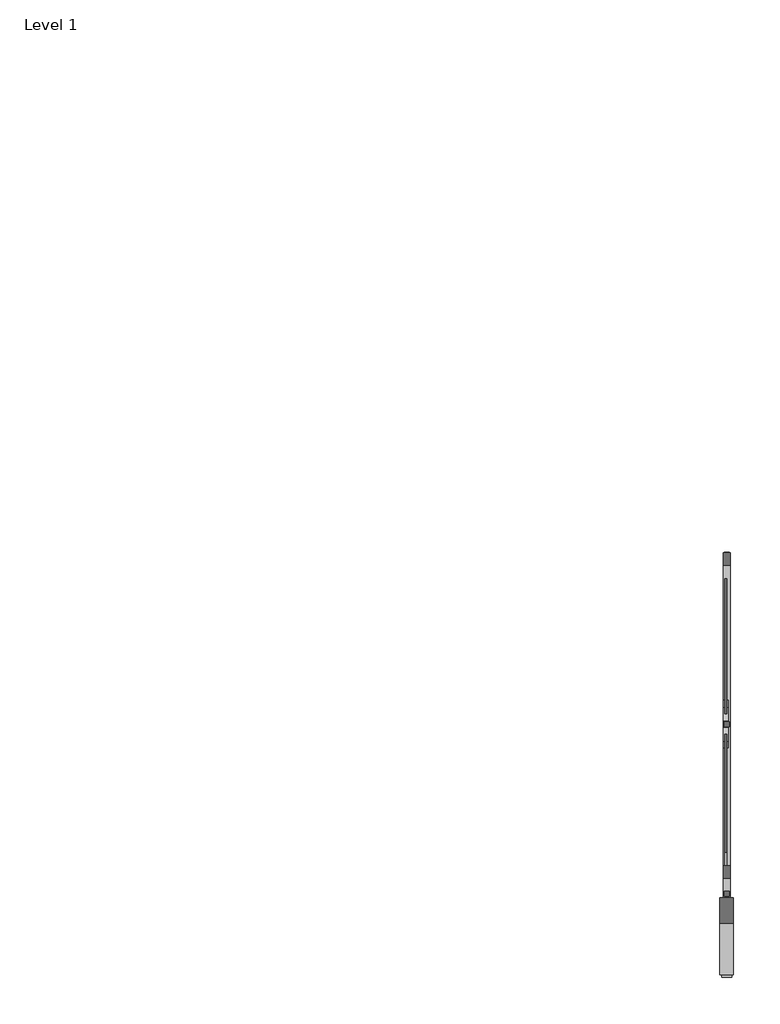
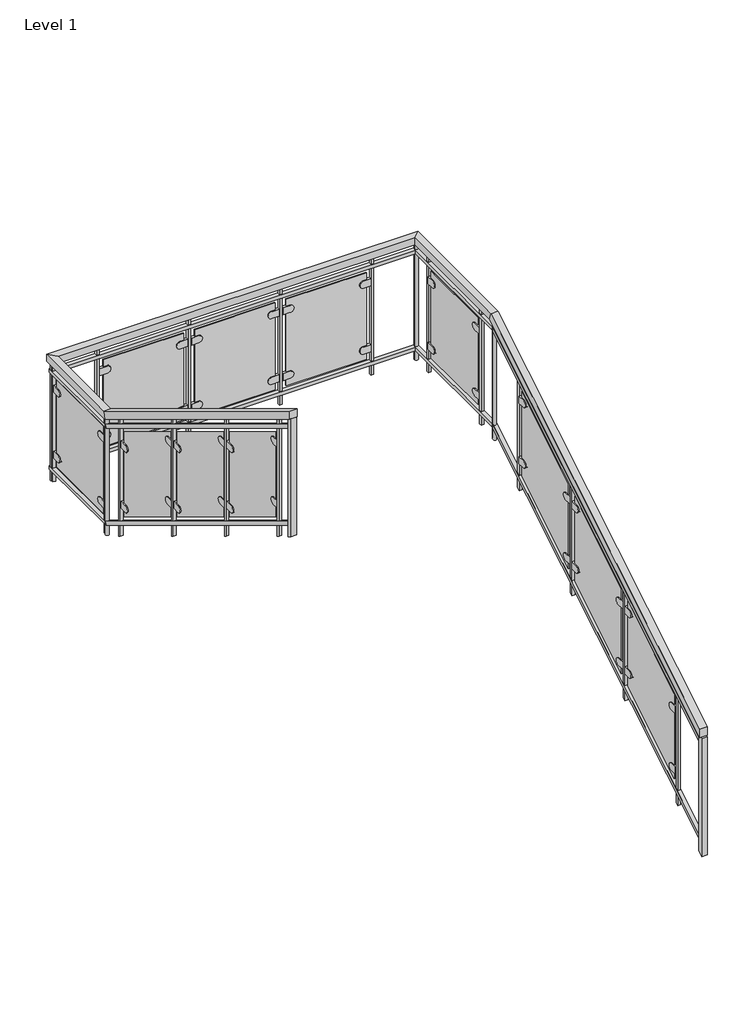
# One storey, part 2 of 14: 1 railing.
"""IFC4 building model written with IfcOpenShell, lengths in millimetres."""

from ifc_helpers import new_model, si_unit, point, frame, frame_2d, origin, place, context, project, spatial, polyline, circle_curve, ellipse_curve, trimmed, segment, composite_curve, outline, extrude, faceted_brep, element, save
from ifc_brep_helpers import plane_surface, cylinder_surface, advanced_brep

model = new_model("IFC4")

# Units and contexts
model_context = context("Model", 3, world=origin())
ifc_project = project(units=[si_unit("LENGTHUNIT", "METRE", prefix="MILLI")], contexts=[model_context])

# Site, building, storey
site = spatial("IfcSite", under=ifc_project)
building = spatial("IfcBuilding", under=site)
storey = spatial("IfcBuildingStorey", under=building, Name="Level 1", Elevation=0.0)

# Railing
placement = place(None, origin())
element("IfcRailing", 1, ObjectType="Handrail - Glass Panel w Brackets", at=placement, inside=storey, context=model_context, shape_type="SolidModel", body=[
    faceted_brep([(-15264.3978678, -2131.266536, 1083.7333333), (-15264.3978678, -2131.266536, 1024.3318731), (-15213.5978678, -2131.266536, 1024.3318731), (-15213.5978678, -2131.266536, 1083.7333333), (-15264.3978678, 383.333464, 2607.7333333), (-15264.3978678, 397.5258734, 2556.9333333), (-15213.5978678, 397.5258734, 2556.9333333), (-15213.5978678, 383.333464, 2607.7333333), (-15264.3978678, 1297.733464, 2607.7333333), (-15264.3978678, 1297.733464, 2556.9333333), (-15213.5978678, 1348.533464, 2556.9333333), (-15213.5978678, 1348.533464, 2607.7333333), (-17739.4743809, 1297.733464, 2607.7333333), (-17739.4743809, 1297.733464, 2556.9333333), (-17790.2743809, 1348.533464, 2556.9333333), (-17790.2743809, 1348.533464, 2607.7333333), (-17739.4743809, 662.733464, 2607.7333333), (-17739.4743809, 648.5410545, 2556.9333333), (-17790.2743809, 648.5410545, 2556.9333333), (-17790.2743809, 662.733464, 2607.7333333), (-17739.4743809, -1572.466536, 3962.4), (-17790.2743809, -1572.466536, 3962.4), (-17790.2743809, -1572.466536, 3902.9985397), (-17739.4743809, -1572.466536, 3902.9985397)], [[[0, 1, 2, 3]], [[1, 0, 4, 5]], [[2, 1, 5, 6]], [[3, 2, 6, 7]], [[0, 3, 7, 4]], [[5, 4, 8, 9]], [[6, 5, 9, 10]], [[7, 6, 10, 11]], [[4, 7, 11, 8]], [[9, 8, 12, 13]], [[10, 9, 13, 14]], [[11, 10, 14, 15]], [[8, 11, 15, 12]], [[13, 12, 16, 17]], [[14, 13, 17, 18]], [[15, 14, 18, 19]], [[12, 15, 19, 16]], [[20, 21, 22, 23]], [[17, 16, 20, 23]], [[18, 17, 23, 22]], [[19, 18, 22, 21]], [[16, 19, 21, 20]]]),
    faceted_brep([(-15226.2978678, -2131.266536, 982.1333333), (-15251.6978678, -2131.266536, 982.1333333), (-15251.6978678, -2131.266536, 952.4326032), (-15226.2978678, -2131.266536, 952.4326032), (-15226.2978678, 383.333464, 2506.1333333), (-15251.6978678, 383.333464, 2506.1333333), (-15251.6978678, 390.4296687, 2480.7333333), (-15226.2978678, 390.4296687, 2480.7333333), (-15226.2978678, 1335.833464, 2506.1333333), (-15251.6978678, 1310.433464, 2506.1333333), (-15251.6978678, 1310.433464, 2480.7333333), (-15226.2978678, 1335.833464, 2480.7333333), (-17777.5743809, 1335.833464, 2506.1333333), (-17752.1743809, 1310.433464, 2506.1333333), (-17752.1743809, 1310.433464, 2480.7333333), (-17777.5743809, 1335.833464, 2480.7333333), (-17777.5743809, 662.733464, 2506.1333333), (-17752.1743809, 662.733464, 2506.1333333), (-17752.1743809, 655.6372592, 2480.7333333), (-17777.5743809, 655.6372592, 2480.7333333), (-17777.5743809, -1572.466536, 3860.8), (-17777.5743809, -1572.466536, 3831.0992699), (-17752.1743809, -1572.466536, 3831.0992699), (-17752.1743809, -1572.466536, 3860.8)], [[[0, 1, 2, 3]], [[1, 0, 4, 5]], [[2, 1, 5, 6]], [[3, 2, 6, 7]], [[0, 3, 7, 4]], [[5, 4, 8, 9]], [[6, 5, 9, 10]], [[7, 6, 10, 11]], [[4, 7, 11, 8]], [[9, 8, 12, 13]], [[10, 9, 13, 14]], [[11, 10, 14, 15]], [[8, 11, 15, 12]], [[13, 12, 16, 17]], [[14, 13, 17, 18]], [[15, 14, 18, 19]], [[12, 15, 19, 16]], [[20, 21, 22, 23]], [[17, 16, 20, 23]], [[18, 17, 23, 22]], [[19, 18, 22, 21]], [[16, 19, 21, 20]]]),
    faceted_brep([(-15226.2978678, -2131.266536, 270.9333333), (-15251.6978678, -2131.266536, 270.9333333), (-15251.6978678, -2131.266536, 241.2326032), (-15226.2978678, -2131.266536, 241.2326032), (-15226.2978678, 383.333464, 1794.9333333), (-15251.6978678, 383.333464, 1794.9333333), (-15251.6978678, 390.4296687, 1769.5333333), (-15226.2978678, 390.4296687, 1769.5333333), (-15226.2978678, 1335.833464, 1794.9333333), (-15251.6978678, 1310.433464, 1794.9333333), (-15251.6978678, 1310.433464, 1769.5333333), (-15226.2978678, 1335.833464, 1769.5333333), (-17777.5743809, 1335.833464, 1794.9333333), (-17752.1743809, 1310.433464, 1794.9333333), (-17752.1743809, 1310.433464, 1769.5333333), (-17777.5743809, 1335.833464, 1769.5333333), (-17777.5743809, 662.733464, 1794.9333333), (-17752.1743809, 662.733464, 1794.9333333), (-17752.1743809, 655.6372592, 1769.5333333), (-17777.5743809, 655.6372592, 1769.5333333), (-17777.5743809, -1572.466536, 3149.6), (-17777.5743809, -1572.466536, 3119.8992699), (-17752.1743809, -1572.466536, 3119.8992699), (-17752.1743809, -1572.466536, 3149.6)], [[[0, 1, 2, 3]], [[1, 0, 4, 5]], [[2, 1, 5, 6]], [[3, 2, 6, 7]], [[0, 3, 7, 4]], [[5, 4, 8, 9]], [[6, 5, 9, 10]], [[7, 6, 10, 11]], [[4, 7, 11, 8]], [[9, 8, 12, 13]], [[10, 9, 13, 14]], [[11, 10, 14, 15]], [[8, 11, 15, 12]], [[13, 12, 16, 17]], [[14, 13, 17, 18]], [[15, 14, 18, 19]], [[12, 15, 19, 16]], [[20, 21, 22, 23]], [[17, 16, 20, 23]], [[18, 17, 23, 22]], [[19, 18, 22, 21]], [[16, 19, 21, 20]]]),
    extrude(outline(polyline([(-1416.891536, 3808.710661), (-1397.841536, 3797.1652064), (-1397.841536, 2933.8356134), (-1416.891536, 2945.381068), (-1416.891536, 3808.710661)])), frame((-17774.3993809, 0.0, 0.0), z_axis=(1.0, 0.0, 0.0), x_axis=(0.0, 1.0, 0.0)), (0.0, 0.0, 1.0), 19.05),
    extrude(outline(composite_curve([segment(trimmed(circle_curve(frame_2d((-1343.866536, 3604.5387736)), 25.4), [point((-1343.866536, 3629.9387736))], [point((-1343.866536, 3579.1387736))], False, "CARTESIAN"), True, "CONTINUOUS"), segment(polyline([(-1343.866536, 3579.1387736), (-1394.666536, 3579.1387736), (-1394.666536, 3629.9387736), (-1343.866536, 3629.9387736)]), True, "CONTINUOUS")], self_intersect=False)), frame((-17771.2243809, 0.0, 0.0), z_axis=(1.0, 0.0, 0.0), x_axis=(0.0, 1.0, 0.0)), (0.0, 0.0, 1.0), 19.05),
    extrude(outline(composite_curve([segment(polyline([(-835.866536, 3260.4842282), (-785.066536, 3260.4842282), (-785.066536, 3209.6842282), (-835.866536, 3209.6842282)]), True, "CONTINUOUS"), segment(trimmed(circle_curve(frame_2d((-835.866536, 3235.0842282)), 25.4), [point((-835.866536, 3209.6842282))], [point((-835.866536, 3260.4842282))], False, "CARTESIAN"), True, "CONTINUOUS")], self_intersect=False)), frame((-17771.2243809, 0.0, 0.0), z_axis=(1.0, 0.0, 0.0), x_axis=(0.0, 1.0, 0.0)), (0.0, 0.0, 1.0), 19.05),
    extrude(outline(composite_curve([segment(trimmed(circle_curve(frame_2d((-1343.866536, 3160.6453447)), 25.4), [point((-1343.866536, 3186.0453447))], [point((-1343.866536, 3135.2453447))], False, "CARTESIAN"), True, "CONTINUOUS"), segment(polyline([(-1343.866536, 3135.2453447), (-1394.666536, 3135.2453447), (-1394.666536, 3186.0453447), (-1343.866536, 3186.0453447)]), True, "CONTINUOUS")], self_intersect=False)), frame((-17771.2243809, 0.0, 0.0), z_axis=(1.0, 0.0, 0.0), x_axis=(0.0, 1.0, 0.0)), (0.0, 0.0, 1.0), 19.05),
    extrude(outline(composite_curve([segment(polyline([(-835.866536, 2816.5907993), (-785.066536, 2816.5907993), (-785.066536, 2765.7907993), (-835.866536, 2765.7907993)]), True, "CONTINUOUS"), segment(trimmed(circle_curve(frame_2d((-835.866536, 2791.1907993)), 25.4), [point((-835.866536, 2765.7907993))], [point((-835.866536, 2816.5907993))], False, "CARTESIAN"), True, "CONTINUOUS")], self_intersect=False)), frame((-17771.2243809, 0.0, 0.0), z_axis=(1.0, 0.0, 0.0), x_axis=(0.0, 1.0, 0.0)), (0.0, 0.0, 1.0), 19.05),
    extrude(outline(polyline([(-810.466536, 3339.5803579), (-810.466536, 2717.4825483), (-1369.266536, 3056.149215), (-1369.266536, 3678.2470246), (-810.466536, 3339.5803579)])), frame((-17764.8743809, 0.0, 0.0), z_axis=(1.0, 0.0, 0.0), x_axis=(0.0, 1.0, 0.0)), (0.0, 0.0, 1.0), 6.35),
    extrude(outline(polyline([(-781.891536, 3423.8621761), (-762.841536, 3412.3167216), (-762.841536, 2548.9871286), (-781.891536, 2560.5325831), (-781.891536, 3423.8621761)])), frame((-17774.3993809, 0.0, 0.0), z_axis=(1.0, 0.0, 0.0), x_axis=(0.0, 1.0, 0.0)), (0.0, 0.0, 1.0), 19.05),
    extrude(outline(composite_curve([segment(trimmed(circle_curve(frame_2d((-708.866536, 3219.6902888)), 25.4), [point((-708.866536, 3245.0902888))], [point((-708.866536, 3194.2902888))], False, "CARTESIAN"), True, "CONTINUOUS"), segment(polyline([(-708.866536, 3194.2902888), (-759.666536, 3194.2902888), (-759.666536, 3245.0902888), (-708.866536, 3245.0902888)]), True, "CONTINUOUS")], self_intersect=False)), frame((-17771.2243809, 0.0, 0.0), z_axis=(1.0, 0.0, 0.0), x_axis=(0.0, 1.0, 0.0)), (0.0, 0.0, 1.0), 19.05),
    extrude(outline(composite_curve([segment(polyline([(-200.866536, 2875.6357433), (-150.066536, 2875.6357433), (-150.066536, 2824.8357433), (-200.866536, 2824.8357433)]), True, "CONTINUOUS"), segment(trimmed(circle_curve(frame_2d((-200.866536, 2850.2357433)), 25.4), [point((-200.866536, 2824.8357433))], [point((-200.866536, 2875.6357433))], False, "CARTESIAN"), True, "CONTINUOUS")], self_intersect=False)), frame((-17771.2243809, 0.0, 0.0), z_axis=(1.0, 0.0, 0.0), x_axis=(0.0, 1.0, 0.0)), (0.0, 0.0, 1.0), 19.05),
    extrude(outline(composite_curve([segment(trimmed(circle_curve(frame_2d((-708.866536, 2775.7968599)), 25.4), [point((-708.866536, 2801.1968599))], [point((-708.866536, 2750.3968599))], False, "CARTESIAN"), True, "CONTINUOUS"), segment(polyline([(-708.866536, 2750.3968599), (-759.666536, 2750.3968599), (-759.666536, 2801.1968599), (-708.866536, 2801.1968599)]), True, "CONTINUOUS")], self_intersect=False)), frame((-17771.2243809, 0.0, 0.0), z_axis=(1.0, 0.0, 0.0), x_axis=(0.0, 1.0, 0.0)), (0.0, 0.0, 1.0), 19.05),
    extrude(outline(composite_curve([segment(polyline([(-200.866536, 2431.7423144), (-150.066536, 2431.7423144), (-150.066536, 2380.9423144), (-200.866536, 2380.9423144)]), True, "CONTINUOUS"), segment(trimmed(circle_curve(frame_2d((-200.866536, 2406.3423144)), 25.4), [point((-200.866536, 2380.9423144))], [point((-200.866536, 2431.7423144))], False, "CARTESIAN"), True, "CONTINUOUS")], self_intersect=False)), frame((-17771.2243809, 0.0, 0.0), z_axis=(1.0, 0.0, 0.0), x_axis=(0.0, 1.0, 0.0)), (0.0, 0.0, 1.0), 19.05),
    extrude(outline(polyline([(-175.466536, 2954.7318731), (-175.466536, 2332.6340635), (-734.266536, 2671.3007301), (-734.266536, 3293.3985397), (-175.466536, 2954.7318731)])), frame((-17764.8743809, 0.0, 0.0), z_axis=(1.0, 0.0, 0.0), x_axis=(0.0, 1.0, 0.0)), (0.0, 0.0, 1.0), 6.35),
    extrude(outline(polyline([(-146.891536, 3039.0136913), (-127.841536, 3027.4682367), (-127.841536, 2164.1386437), (-146.891536, 2175.6840983), (-146.891536, 3039.0136913)])), frame((-17774.3993809, 0.0, 0.0), z_axis=(1.0, 0.0, 0.0), x_axis=(0.0, 1.0, 0.0)), (0.0, 0.0, 1.0), 19.05),
    extrude(outline(composite_curve([segment(trimmed(circle_curve(frame_2d((-73.866536, 2834.8418039)), 25.4), [point((-73.866536, 2860.2418039))], [point((-73.866536, 2809.4418039))], False, "CARTESIAN"), True, "CONTINUOUS"), segment(polyline([(-73.866536, 2809.4418039), (-124.666536, 2809.4418039), (-124.666536, 2860.2418039), (-73.866536, 2860.2418039)]), True, "CONTINUOUS")], self_intersect=False)), frame((-17771.2243809, 0.0, 0.0), z_axis=(1.0, 0.0, 0.0), x_axis=(0.0, 1.0, 0.0)), (0.0, 0.0, 1.0), 19.05),
    extrude(outline(composite_curve([segment(polyline([(434.133464, 2490.7872585), (484.933464, 2490.7872585), (484.933464, 2439.9872585), (434.133464, 2439.9872585)]), True, "CONTINUOUS"), segment(trimmed(circle_curve(frame_2d((434.133464, 2465.3872585)), 25.4), [point((434.133464, 2439.9872585))], [point((434.133464, 2490.7872585))], False, "CARTESIAN"), True, "CONTINUOUS")], self_intersect=False)), frame((-17771.2243809, 0.0, 0.0), z_axis=(1.0, 0.0, 0.0), x_axis=(0.0, 1.0, 0.0)), (0.0, 0.0, 1.0), 19.05),
    extrude(outline(composite_curve([segment(trimmed(circle_curve(frame_2d((-73.866536, 2390.9483751)), 25.4), [point((-73.866536, 2416.3483751))], [point((-73.866536, 2365.5483751))], False, "CARTESIAN"), True, "CONTINUOUS"), segment(polyline([(-73.866536, 2365.5483751), (-124.666536, 2365.5483751), (-124.666536, 2416.3483751), (-73.866536, 2416.3483751)]), True, "CONTINUOUS")], self_intersect=False)), frame((-17771.2243809, 0.0, 0.0), z_axis=(1.0, 0.0, 0.0), x_axis=(0.0, 1.0, 0.0)), (0.0, 0.0, 1.0), 19.05),
    extrude(outline(composite_curve([segment(polyline([(434.133464, 2046.8938296), (484.933464, 2046.8938296), (484.933464, 1996.0938296), (434.133464, 1996.0938296)]), True, "CONTINUOUS"), segment(trimmed(circle_curve(frame_2d((434.133464, 2021.4938296)), 25.4), [point((434.133464, 1996.0938296))], [point((434.133464, 2046.8938296))], False, "CARTESIAN"), True, "CONTINUOUS")], self_intersect=False)), frame((-17771.2243809, 0.0, 0.0), z_axis=(1.0, 0.0, 0.0), x_axis=(0.0, 1.0, 0.0)), (0.0, 0.0, 1.0), 19.05),
    extrude(outline(polyline([(459.533464, 2569.8833882), (459.533464, 1947.7855786), (-99.266536, 2286.4522453), (-99.266536, 2908.5500549), (459.533464, 2569.8833882)])), frame((-17764.8743809, 0.0, 0.0), z_axis=(1.0, 0.0, 0.0), x_axis=(0.0, 1.0, 0.0)), (0.0, 0.0, 1.0), 6.35),
    extrude(outline(polyline([(488.108464, 2654.1652064), (507.158464, 2642.6197519), (507.158464, 1779.2901589), (488.108464, 1790.8356134), (488.108464, 2654.1652064)])), frame((-17774.3993809, 0.0, 0.0), z_axis=(1.0, 0.0, 0.0), x_axis=(0.0, 1.0, 0.0)), (0.0, 0.0, 1.0), 19.05),
    extrude(outline(polyline([(-17774.3993809, 684.958464), (-17755.3493809, 684.958464), (-17755.3493809, 665.908464), (-17774.3993809, 665.908464), (-17774.3993809, 684.958464)])), frame((0.0, 0.0, 1695.7303208), z_axis=(0.0, 0.0, 1.0), x_axis=(1.0, 0.0, 0.0)), (0.0, 0.0, 1.0), 861.2030125),
    extrude(outline(composite_curve([segment(trimmed(circle_curve(frame_2d((738.933464, 2379.1333333)), 25.4), [point((738.933464, 2404.5333333))], [point((738.933464, 2353.7333333))], False, "CARTESIAN"), True, "CONTINUOUS"), segment(polyline([(738.933464, 2353.7333333), (688.133464, 2353.7333333), (688.133464, 2404.5333333), (738.933464, 2404.5333333)]), True, "CONTINUOUS")], self_intersect=False)), frame((-17771.2243809, 0.0, 0.0), z_axis=(1.0, 0.0, 0.0), x_axis=(0.0, 1.0, 0.0)), (0.0, 0.0, 1.0), 19.05),
    extrude(outline(composite_curve([segment(polyline([(1246.933464, 2404.5333333), (1297.733464, 2404.5333333), (1297.733464, 2353.7333333), (1246.933464, 2353.7333333)]), True, "CONTINUOUS"), segment(trimmed(circle_curve(frame_2d((1246.933464, 2379.1333333)), 25.4), [point((1246.933464, 2353.7333333))], [point((1246.933464, 2404.5333333))], False, "CARTESIAN"), True, "CONTINUOUS")], self_intersect=False)), frame((-17771.2243809, 0.0, 0.0), z_axis=(1.0, 0.0, 0.0), x_axis=(0.0, 1.0, 0.0)), (0.0, 0.0, 1.0), 19.05),
    extrude(outline(composite_curve([segment(trimmed(circle_curve(frame_2d((738.933464, 1896.5333333)), 25.4), [point((738.933464, 1921.9333333))], [point((738.933464, 1871.1333333))], False, "CARTESIAN"), True, "CONTINUOUS"), segment(polyline([(738.933464, 1871.1333333), (688.133464, 1871.1333333), (688.133464, 1921.9333333), (738.933464, 1921.9333333)]), True, "CONTINUOUS")], self_intersect=False)), frame((-17771.2243809, 0.0, 0.0), z_axis=(1.0, 0.0, 0.0), x_axis=(0.0, 1.0, 0.0)), (0.0, 0.0, 1.0), 19.05),
    extrude(outline(composite_curve([segment(polyline([(1246.933464, 1921.9333333), (1297.733464, 1921.9333333), (1297.733464, 1871.1333333), (1246.933464, 1871.1333333)]), True, "CONTINUOUS"), segment(trimmed(circle_curve(frame_2d((1246.933464, 1896.5333333)), 25.4), [point((1246.933464, 1871.1333333))], [point((1246.933464, 1921.9333333))], False, "CARTESIAN"), True, "CONTINUOUS")], self_intersect=False)), frame((-17771.2243809, 0.0, 0.0), z_axis=(1.0, 0.0, 0.0), x_axis=(0.0, 1.0, 0.0)), (0.0, 0.0, 1.0), 19.05),
    extrude(outline(polyline([(-17758.5243809, 1272.333464), (-17758.5243809, 713.533464), (-17764.8743809, 713.533464), (-17764.8743809, 1272.333464), (-17758.5243809, 1272.333464)])), frame((0.0, 0.0, 1820.3333333), z_axis=(0.0, 0.0, 1.0), x_axis=(1.0, 0.0, 0.0)), (0.0, 0.0, 1.0), 635.0),
    extrude(outline(polyline([(-17774.3993809, 1319.958464), (-17755.3493809, 1319.958464), (-17755.3493809, 1300.908464), (-17774.3993809, 1300.908464), (-17774.3993809, 1319.958464)])), frame((0.0, 0.0, 1695.7303208), z_axis=(0.0, 0.0, 1.0), x_axis=(1.0, 0.0, 0.0)), (0.0, 0.0, 1.0), 861.2030125),
    extrude(outline(polyline([(-17444.9111244, 1332.658464), (-17444.9111244, 1313.608464), (-17463.9611244, 1313.608464), (-17463.9611244, 1332.658464), (-17444.9111244, 1332.658464)])), frame((0.0, 0.0, 1695.7303208), z_axis=(0.0, 0.0, 1.0), x_axis=(1.0, 0.0, 0.0)), (0.0, 0.0, 1.0), 861.2030125),
    extrude(outline(composite_curve([segment(polyline([(2404.5333333, -17390.9361244), (2404.5333333, -17441.7361244), (2353.7333333, -17441.7361244), (2353.7333333, -17390.9361244)]), True, "CONTINUOUS"), segment(trimmed(circle_curve(frame_2d((2379.1333333, -17390.9361244)), 25.4), [point((2353.7333333, -17390.9361244))], [point((2404.5333333, -17390.9361244))], False, "CARTESIAN"), True, "CONTINUOUS")], self_intersect=False)), frame((0.0, 1310.433464, 0.0), z_axis=(0.0, 1.0, 0.0), x_axis=(0.0, 0.0, 1.0)), (0.0, 0.0, 1.0), 19.05),
    extrude(outline(composite_curve([segment(trimmed(circle_curve(frame_2d((2379.1333333, -16882.9361244)), 25.4), [point((2404.5333333, -16882.9361244))], [point((2353.7333333, -16882.9361244))], False, "CARTESIAN"), True, "CONTINUOUS"), segment(polyline([(2353.7333333, -16882.9361244), (2353.7333333, -16832.1361244), (2404.5333333, -16832.1361244), (2404.5333333, -16882.9361244)]), True, "CONTINUOUS")], self_intersect=False)), frame((0.0, 1310.433464, 0.0), z_axis=(0.0, 1.0, 0.0), x_axis=(0.0, 0.0, 1.0)), (0.0, 0.0, 1.0), 19.05),
    extrude(outline(composite_curve([segment(polyline([(1921.9333333, -17390.9361244), (1921.9333333, -17441.7361244), (1871.1333333, -17441.7361244), (1871.1333333, -17390.9361244)]), True, "CONTINUOUS"), segment(trimmed(circle_curve(frame_2d((1896.5333333, -17390.9361244)), 25.4), [point((1871.1333333, -17390.9361244))], [point((1921.9333333, -17390.9361244))], False, "CARTESIAN"), True, "CONTINUOUS")], self_intersect=False)), frame((0.0, 1310.433464, 0.0), z_axis=(0.0, 1.0, 0.0), x_axis=(0.0, 0.0, 1.0)), (0.0, 0.0, 1.0), 19.05),
    extrude(outline(composite_curve([segment(trimmed(circle_curve(frame_2d((1896.5333333, -16882.9361244)), 25.4), [point((1921.9333333, -16882.9361244))], [point((1871.1333333, -16882.9361244))], False, "CARTESIAN"), True, "CONTINUOUS"), segment(polyline([(1871.1333333, -16882.9361244), (1871.1333333, -16832.1361244), (1921.9333333, -16832.1361244), (1921.9333333, -16882.9361244)]), True, "CONTINUOUS")], self_intersect=False)), frame((0.0, 1310.433464, 0.0), z_axis=(0.0, 1.0, 0.0), x_axis=(0.0, 0.0, 1.0)), (0.0, 0.0, 1.0), 19.05),
    extrude(outline(polyline([(-16857.5361244, 1316.783464), (-17416.3361244, 1316.783464), (-17416.3361244, 1323.133464), (-16857.5361244, 1323.133464), (-16857.5361244, 1316.783464)])), frame((0.0, 0.0, 1820.3333333), z_axis=(0.0, 0.0, 1.0), x_axis=(1.0, 0.0, 0.0)), (0.0, 0.0, 1.0), 635.0),
    extrude(outline(polyline([(-16809.9111244, 1332.658464), (-16809.9111244, 1313.608464), (-16828.9611244, 1313.608464), (-16828.9611244, 1332.658464), (-16809.9111244, 1332.658464)])), frame((0.0, 0.0, 1695.7303208), z_axis=(0.0, 0.0, 1.0), x_axis=(1.0, 0.0, 0.0)), (0.0, 0.0, 1.0), 861.2030125),
    extrude(outline(composite_curve([segment(polyline([(2404.5333333, -16755.9361244), (2404.5333333, -16806.7361244), (2353.7333333, -16806.7361244), (2353.7333333, -16755.9361244)]), True, "CONTINUOUS"), segment(trimmed(circle_curve(frame_2d((2379.1333333, -16755.9361244)), 25.4), [point((2353.7333333, -16755.9361244))], [point((2404.5333333, -16755.9361244))], False, "CARTESIAN"), True, "CONTINUOUS")], self_intersect=False)), frame((0.0, 1310.433464, 0.0), z_axis=(0.0, 1.0, 0.0), x_axis=(0.0, 0.0, 1.0)), (0.0, 0.0, 1.0), 19.05),
    extrude(outline(composite_curve([segment(trimmed(circle_curve(frame_2d((2379.1333333, -16247.9361244)), 25.4), [point((2404.5333333, -16247.9361244))], [point((2353.7333333, -16247.9361244))], False, "CARTESIAN"), True, "CONTINUOUS"), segment(polyline([(2353.7333333, -16247.9361244), (2353.7333333, -16197.1361244), (2404.5333333, -16197.1361244), (2404.5333333, -16247.9361244)]), True, "CONTINUOUS")], self_intersect=False)), frame((0.0, 1310.433464, 0.0), z_axis=(0.0, 1.0, 0.0), x_axis=(0.0, 0.0, 1.0)), (0.0, 0.0, 1.0), 19.05),
    extrude(outline(composite_curve([segment(polyline([(1921.9333333, -16755.9361244), (1921.9333333, -16806.7361244), (1871.1333333, -16806.7361244), (1871.1333333, -16755.9361244)]), True, "CONTINUOUS"), segment(trimmed(circle_curve(frame_2d((1896.5333333, -16755.9361244)), 25.4), [point((1871.1333333, -16755.9361244))], [point((1921.9333333, -16755.9361244))], False, "CARTESIAN"), True, "CONTINUOUS")], self_intersect=False)), frame((0.0, 1310.433464, 0.0), z_axis=(0.0, 1.0, 0.0), x_axis=(0.0, 0.0, 1.0)), (0.0, 0.0, 1.0), 19.05),
    extrude(outline(composite_curve([segment(trimmed(circle_curve(frame_2d((1896.5333333, -16247.9361244)), 25.4), [point((1921.9333333, -16247.9361244))], [point((1871.1333333, -16247.9361244))], False, "CARTESIAN"), True, "CONTINUOUS"), segment(polyline([(1871.1333333, -16247.9361244), (1871.1333333, -16197.1361244), (1921.9333333, -16197.1361244), (1921.9333333, -16247.9361244)]), True, "CONTINUOUS")], self_intersect=False)), frame((0.0, 1310.433464, 0.0), z_axis=(0.0, 1.0, 0.0), x_axis=(0.0, 0.0, 1.0)), (0.0, 0.0, 1.0), 19.05),
    extrude(outline(polyline([(-16222.5361244, 1316.783464), (-16781.3361244, 1316.783464), (-16781.3361244, 1323.133464), (-16222.5361244, 1323.133464), (-16222.5361244, 1316.783464)])), frame((0.0, 0.0, 1820.3333333), z_axis=(0.0, 0.0, 1.0), x_axis=(1.0, 0.0, 0.0)), (0.0, 0.0, 1.0), 635.0),
    extrude(outline(polyline([(-16174.9111244, 1332.658464), (-16174.9111244, 1313.608464), (-16193.9611244, 1313.608464), (-16193.9611244, 1332.658464), (-16174.9111244, 1332.658464)])), frame((0.0, 0.0, 1695.7303208), z_axis=(0.0, 0.0, 1.0), x_axis=(1.0, 0.0, 0.0)), (0.0, 0.0, 1.0), 861.2030125),
    extrude(outline(composite_curve([segment(polyline([(2404.5333333, -16120.9361244), (2404.5333333, -16171.7361244), (2353.7333333, -16171.7361244), (2353.7333333, -16120.9361244)]), True, "CONTINUOUS"), segment(trimmed(circle_curve(frame_2d((2379.1333333, -16120.9361244)), 25.4), [point((2353.7333333, -16120.9361244))], [point((2404.5333333, -16120.9361244))], False, "CARTESIAN"), True, "CONTINUOUS")], self_intersect=False)), frame((0.0, 1310.433464, 0.0), z_axis=(0.0, 1.0, 0.0), x_axis=(0.0, 0.0, 1.0)), (0.0, 0.0, 1.0), 19.05),
    extrude(outline(composite_curve([segment(trimmed(circle_curve(frame_2d((2379.1333333, -15612.9361244)), 25.4), [point((2404.5333333, -15612.9361244))], [point((2353.7333333, -15612.9361244))], False, "CARTESIAN"), True, "CONTINUOUS"), segment(polyline([(2353.7333333, -15612.9361244), (2353.7333333, -15562.1361244), (2404.5333333, -15562.1361244), (2404.5333333, -15612.9361244)]), True, "CONTINUOUS")], self_intersect=False)), frame((0.0, 1310.433464, 0.0), z_axis=(0.0, 1.0, 0.0), x_axis=(0.0, 0.0, 1.0)), (0.0, 0.0, 1.0), 19.05),
    extrude(outline(composite_curve([segment(polyline([(1921.9333333, -16120.9361244), (1921.9333333, -16171.7361244), (1871.1333333, -16171.7361244), (1871.1333333, -16120.9361244)]), True, "CONTINUOUS"), segment(trimmed(circle_curve(frame_2d((1896.5333333, -16120.9361244)), 25.4), [point((1871.1333333, -16120.9361244))], [point((1921.9333333, -16120.9361244))], False, "CARTESIAN"), True, "CONTINUOUS")], self_intersect=False)), frame((0.0, 1310.433464, 0.0), z_axis=(0.0, 1.0, 0.0), x_axis=(0.0, 0.0, 1.0)), (0.0, 0.0, 1.0), 19.05),
    extrude(outline(composite_curve([segment(trimmed(circle_curve(frame_2d((1896.5333333, -15612.9361244)), 25.4), [point((1921.9333333, -15612.9361244))], [point((1871.1333333, -15612.9361244))], False, "CARTESIAN"), True, "CONTINUOUS"), segment(polyline([(1871.1333333, -15612.9361244), (1871.1333333, -15562.1361244), (1921.9333333, -15562.1361244), (1921.9333333, -15612.9361244)]), True, "CONTINUOUS")], self_intersect=False)), frame((0.0, 1310.433464, 0.0), z_axis=(0.0, 1.0, 0.0), x_axis=(0.0, 0.0, 1.0)), (0.0, 0.0, 1.0), 19.05),
    extrude(outline(polyline([(-15587.5361244, 1316.783464), (-16146.3361244, 1316.783464), (-16146.3361244, 1323.133464), (-15587.5361244, 1323.133464), (-15587.5361244, 1316.783464)])), frame((0.0, 0.0, 1820.3333333), z_axis=(0.0, 0.0, 1.0), x_axis=(1.0, 0.0, 0.0)), (0.0, 0.0, 1.0), 635.0),
    extrude(outline(polyline([(-15539.9111244, 1332.658464), (-15539.9111244, 1313.608464), (-15558.9611244, 1313.608464), (-15558.9611244, 1332.658464), (-15539.9111244, 1332.658464)])), frame((0.0, 0.0, 1695.7303208), z_axis=(0.0, 0.0, 1.0), x_axis=(1.0, 0.0, 0.0)), (0.0, 0.0, 1.0), 861.2030125),
    extrude(outline(polyline([(-15229.4728678, 1161.208464), (-15248.5228678, 1161.208464), (-15248.5228678, 1180.258464), (-15229.4728678, 1180.258464), (-15229.4728678, 1161.208464)])), frame((0.0, 0.0, 1695.7303208), z_axis=(0.0, 0.0, 1.0), x_axis=(1.0, 0.0, 0.0)), (0.0, 0.0, 1.0), 861.2030125),
    extrude(outline(composite_curve([segment(polyline([(1107.233464, 2404.5333333), (1158.033464, 2404.5333333), (1158.033464, 2353.7333333), (1107.233464, 2353.7333333)]), True, "CONTINUOUS"), segment(trimmed(circle_curve(frame_2d((1107.233464, 2379.1333333)), 25.4), [point((1107.233464, 2353.7333333))], [point((1107.233464, 2404.5333333))], False, "CARTESIAN"), True, "CONTINUOUS")], self_intersect=False)), frame((-15251.6978678, 0.0, 0.0), z_axis=(1.0, 0.0, 0.0), x_axis=(0.0, 1.0, 0.0)), (0.0, 0.0, 1.0), 19.05),
    extrude(outline(composite_curve([segment(trimmed(circle_curve(frame_2d((599.233464, 2379.1333333)), 25.4), [point((599.233464, 2404.5333333))], [point((599.233464, 2353.7333333))], False, "CARTESIAN"), True, "CONTINUOUS"), segment(polyline([(599.233464, 2353.7333333), (548.433464, 2353.7333333), (548.433464, 2404.5333333), (599.233464, 2404.5333333)]), True, "CONTINUOUS")], self_intersect=False)), frame((-15251.6978678, 0.0, 0.0), z_axis=(1.0, 0.0, 0.0), x_axis=(0.0, 1.0, 0.0)), (0.0, 0.0, 1.0), 19.05),
    extrude(outline(composite_curve([segment(polyline([(1107.233464, 1921.9333333), (1158.033464, 1921.9333333), (1158.033464, 1871.1333333), (1107.233464, 1871.1333333)]), True, "CONTINUOUS"), segment(trimmed(circle_curve(frame_2d((1107.233464, 1896.5333333)), 25.4), [point((1107.233464, 1871.1333333))], [point((1107.233464, 1921.9333333))], False, "CARTESIAN"), True, "CONTINUOUS")], self_intersect=False)), frame((-15251.6978678, 0.0, 0.0), z_axis=(1.0, 0.0, 0.0), x_axis=(0.0, 1.0, 0.0)), (0.0, 0.0, 1.0), 19.05),
    extrude(outline(composite_curve([segment(trimmed(circle_curve(frame_2d((599.233464, 1896.5333333)), 25.4), [point((599.233464, 1921.9333333))], [point((599.233464, 1871.1333333))], False, "CARTESIAN"), True, "CONTINUOUS"), segment(polyline([(599.233464, 1871.1333333), (548.433464, 1871.1333333), (548.433464, 1921.9333333), (599.233464, 1921.9333333)]), True, "CONTINUOUS")], self_intersect=False)), frame((-15251.6978678, 0.0, 0.0), z_axis=(1.0, 0.0, 0.0), x_axis=(0.0, 1.0, 0.0)), (0.0, 0.0, 1.0), 19.05),
    extrude(outline(polyline([(-15245.3478678, 573.833464), (-15245.3478678, 1132.633464), (-15238.9978678, 1132.633464), (-15238.9978678, 573.833464), (-15245.3478678, 573.833464)])), frame((0.0, 0.0, 1820.3333333), z_axis=(0.0, 0.0, 1.0), x_axis=(1.0, 0.0, 0.0)), (0.0, 0.0, 1.0), 635.0),
    extrude(outline(polyline([(-15229.4728678, 526.208464), (-15248.5228678, 526.208464), (-15248.5228678, 545.258464), (-15229.4728678, 545.258464), (-15229.4728678, 526.208464)])), frame((0.0, 0.0, 1695.7303208), z_axis=(0.0, 0.0, 1.0), x_axis=(1.0, 0.0, 0.0)), (0.0, 0.0, 1.0), 861.2030125),
    extrude(outline(polyline([(69.008464, 2357.8318731), (88.058464, 2369.3773276), (88.058464, 1506.0477346), (69.008464, 1494.5022801), (69.008464, 2357.8318731)])), frame((-15248.5228678, 0.0, 0.0), z_axis=(1.0, 0.0, 0.0), x_axis=(0.0, 1.0, 0.0)), (0.0, 0.0, 1.0), 19.05),
    extrude(outline(composite_curve([segment(polyline([(15.033464, 2190.6054403), (65.833464, 2190.6054403), (65.833464, 2139.8054403), (15.033464, 2139.8054403)]), True, "CONTINUOUS"), segment(trimmed(circle_curve(frame_2d((15.033464, 2165.2054403)), 25.4), [point((15.033464, 2139.8054403))], [point((15.033464, 2190.6054403))], False, "CARTESIAN"), True, "CONTINUOUS")], self_intersect=False)), frame((-15251.6978678, 0.0, 0.0), z_axis=(1.0, 0.0, 0.0), x_axis=(0.0, 1.0, 0.0)), (0.0, 0.0, 1.0), 19.05),
    extrude(outline(composite_curve([segment(trimmed(circle_curve(frame_2d((-492.966536, 1795.7508948)), 25.4), [point((-492.966536, 1821.1508948))], [point((-492.966536, 1770.3508948))], False, "CARTESIAN"), True, "CONTINUOUS"), segment(polyline([(-492.966536, 1770.3508948), (-543.766536, 1770.3508948), (-543.766536, 1821.1508948), (-492.966536, 1821.1508948)]), True, "CONTINUOUS")], self_intersect=False)), frame((-15251.6978678, 0.0, 0.0), z_axis=(1.0, 0.0, 0.0), x_axis=(0.0, 1.0, 0.0)), (0.0, 0.0, 1.0), 19.05),
    extrude(outline(composite_curve([segment(polyline([(15.033464, 1746.7120114), (65.833464, 1746.7120114), (65.833464, 1695.9120114), (15.033464, 1695.9120114)]), True, "CONTINUOUS"), segment(trimmed(circle_curve(frame_2d((15.033464, 1721.3120114)), 25.4), [point((15.033464, 1695.9120114))], [point((15.033464, 1746.7120114))], False, "CARTESIAN"), True, "CONTINUOUS")], self_intersect=False)), frame((-15251.6978678, 0.0, 0.0), z_axis=(1.0, 0.0, 0.0), x_axis=(0.0, 1.0, 0.0)), (0.0, 0.0, 1.0), 19.05),
    extrude(outline(composite_curve([segment(trimmed(circle_curve(frame_2d((-492.966536, 1351.857466)), 25.4), [point((-492.966536, 1377.257466))], [point((-492.966536, 1326.457466))], False, "CARTESIAN"), True, "CONTINUOUS"), segment(polyline([(-492.966536, 1326.457466), (-543.766536, 1326.457466), (-543.766536, 1377.257466), (-492.966536, 1377.257466)]), True, "CONTINUOUS")], self_intersect=False)), frame((-15251.6978678, 0.0, 0.0), z_axis=(1.0, 0.0, 0.0), x_axis=(0.0, 1.0, 0.0)), (0.0, 0.0, 1.0), 19.05),
    extrude(outline(polyline([(-518.366536, 1900.2470246), (40.433464, 2238.9136913), (40.433464, 1616.8158816), (-518.366536, 1278.149215), (-518.366536, 1900.2470246)])), frame((-15245.3478678, 0.0, 0.0), z_axis=(1.0, 0.0, 0.0), x_axis=(0.0, 1.0, 0.0)), (0.0, 0.0, 1.0), 6.35),
    extrude(outline(polyline([(-565.991536, 1972.9833882), (-546.941536, 1984.5288428), (-546.941536, 1121.1992498), (-565.991536, 1109.6537952), (-565.991536, 1972.9833882)])), frame((-15248.5228678, 0.0, 0.0), z_axis=(1.0, 0.0, 0.0), x_axis=(0.0, 1.0, 0.0)), (0.0, 0.0, 1.0), 19.05),
    extrude(outline(composite_curve([segment(polyline([(-619.966536, 1805.7569554), (-569.166536, 1805.7569554), (-569.166536, 1754.9569554), (-619.966536, 1754.9569554)]), True, "CONTINUOUS"), segment(trimmed(circle_curve(frame_2d((-619.966536, 1780.3569554)), 25.4), [point((-619.966536, 1754.9569554))], [point((-619.966536, 1805.7569554))], False, "CARTESIAN"), True, "CONTINUOUS")], self_intersect=False)), frame((-15251.6978678, 0.0, 0.0), z_axis=(1.0, 0.0, 0.0), x_axis=(0.0, 1.0, 0.0)), (0.0, 0.0, 1.0), 19.05),
    extrude(outline(composite_curve([segment(trimmed(circle_curve(frame_2d((-1127.966536, 1410.90241)), 25.4), [point((-1127.966536, 1436.30241))], [point((-1127.966536, 1385.50241))], False, "CARTESIAN"), True, "CONTINUOUS"), segment(polyline([(-1127.966536, 1385.50241), (-1178.766536, 1385.50241), (-1178.766536, 1436.30241), (-1127.966536, 1436.30241)]), True, "CONTINUOUS")], self_intersect=False)), frame((-15251.6978678, 0.0, 0.0), z_axis=(1.0, 0.0, 0.0), x_axis=(0.0, 1.0, 0.0)), (0.0, 0.0, 1.0), 19.05),
    extrude(outline(composite_curve([segment(polyline([(-619.966536, 1361.8635266), (-569.166536, 1361.8635266), (-569.166536, 1311.0635266), (-619.966536, 1311.0635266)]), True, "CONTINUOUS"), segment(trimmed(circle_curve(frame_2d((-619.966536, 1336.4635266)), 25.4), [point((-619.966536, 1311.0635266))], [point((-619.966536, 1361.8635266))], False, "CARTESIAN"), True, "CONTINUOUS")], self_intersect=False)), frame((-15251.6978678, 0.0, 0.0), z_axis=(1.0, 0.0, 0.0), x_axis=(0.0, 1.0, 0.0)), (0.0, 0.0, 1.0), 19.05),
    extrude(outline(composite_curve([segment(trimmed(circle_curve(frame_2d((-1127.966536, 967.0089811)), 25.4), [point((-1127.966536, 992.4089811))], [point((-1127.966536, 941.6089811))], False, "CARTESIAN"), True, "CONTINUOUS"), segment(polyline([(-1127.966536, 941.6089811), (-1178.766536, 941.6089811), (-1178.766536, 992.4089811), (-1127.966536, 992.4089811)]), True, "CONTINUOUS")], self_intersect=False)), frame((-15251.6978678, 0.0, 0.0), z_axis=(1.0, 0.0, 0.0), x_axis=(0.0, 1.0, 0.0)), (0.0, 0.0, 1.0), 19.05),
    extrude(outline(polyline([(-1153.366536, 1515.3985397), (-594.566536, 1854.0652064), (-594.566536, 1231.9673968), (-1153.366536, 893.3007301), (-1153.366536, 1515.3985397)])), frame((-15245.3478678, 0.0, 0.0), z_axis=(1.0, 0.0, 0.0), x_axis=(0.0, 1.0, 0.0)), (0.0, 0.0, 1.0), 6.35),
    extrude(outline(polyline([(-1200.991536, 1588.1349034), (-1181.941536, 1599.6803579), (-1181.941536, 736.3507649), (-1200.991536, 724.8053104), (-1200.991536, 1588.1349034)])), frame((-15248.5228678, 0.0, 0.0), z_axis=(1.0, 0.0, 0.0), x_axis=(0.0, 1.0, 0.0)), (0.0, 0.0, 1.0), 19.05),
    extrude(outline(composite_curve([segment(polyline([(-1254.966536, 1420.9084706), (-1204.166536, 1420.9084706), (-1204.166536, 1370.1084706), (-1254.966536, 1370.1084706)]), True, "CONTINUOUS"), segment(trimmed(circle_curve(frame_2d((-1254.966536, 1395.5084706)), 25.4), [point((-1254.966536, 1370.1084706))], [point((-1254.966536, 1420.9084706))], False, "CARTESIAN"), True, "CONTINUOUS")], self_intersect=False)), frame((-15251.6978678, 0.0, 0.0), z_axis=(1.0, 0.0, 0.0), x_axis=(0.0, 1.0, 0.0)), (0.0, 0.0, 1.0), 19.05),
    extrude(outline(composite_curve([segment(trimmed(circle_curve(frame_2d((-1762.966536, 1026.0539251)), 25.4), [point((-1762.966536, 1051.4539251))], [point((-1762.966536, 1000.6539251))], False, "CARTESIAN"), True, "CONTINUOUS"), segment(polyline([(-1762.966536, 1000.6539251), (-1813.766536, 1000.6539251), (-1813.766536, 1051.4539251), (-1762.966536, 1051.4539251)]), True, "CONTINUOUS")], self_intersect=False)), frame((-15251.6978678, 0.0, 0.0), z_axis=(1.0, 0.0, 0.0), x_axis=(0.0, 1.0, 0.0)), (0.0, 0.0, 1.0), 19.05),
    extrude(outline(composite_curve([segment(polyline([(-1254.966536, 977.0150417), (-1204.166536, 977.0150417), (-1204.166536, 926.2150417), (-1254.966536, 926.2150417)]), True, "CONTINUOUS"), segment(trimmed(circle_curve(frame_2d((-1254.966536, 951.6150417)), 25.4), [point((-1254.966536, 926.2150417))], [point((-1254.966536, 977.0150417))], False, "CARTESIAN"), True, "CONTINUOUS")], self_intersect=False)), frame((-15251.6978678, 0.0, 0.0), z_axis=(1.0, 0.0, 0.0), x_axis=(0.0, 1.0, 0.0)), (0.0, 0.0, 1.0), 19.05),
    extrude(outline(composite_curve([segment(trimmed(circle_curve(frame_2d((-1762.966536, 582.1604963)), 25.4), [point((-1762.966536, 607.5604963))], [point((-1762.966536, 556.7604963))], False, "CARTESIAN"), True, "CONTINUOUS"), segment(polyline([(-1762.966536, 556.7604963), (-1813.766536, 556.7604963), (-1813.766536, 607.5604963), (-1762.966536, 607.5604963)]), True, "CONTINUOUS")], self_intersect=False)), frame((-15251.6978678, 0.0, 0.0), z_axis=(1.0, 0.0, 0.0), x_axis=(0.0, 1.0, 0.0)), (0.0, 0.0, 1.0), 19.05),
    extrude(outline(polyline([(-1788.366536, 1130.5500549), (-1229.566536, 1469.2167216), (-1229.566536, 847.1189119), (-1788.366536, 508.4522453), (-1788.366536, 1130.5500549)])), frame((-15245.3478678, 0.0, 0.0), z_axis=(1.0, 0.0, 0.0), x_axis=(0.0, 1.0, 0.0)), (0.0, 0.0, 1.0), 6.35),
    extrude(outline(polyline([(-1835.991536, 1203.2864185), (-1816.941536, 1214.8318731), (-1816.941536, 351.5022801), (-1835.991536, 339.9568255), (-1835.991536, 1203.2864185)])), frame((-15248.5228678, 0.0, 0.0), z_axis=(1.0, 0.0, 0.0), x_axis=(0.0, 1.0, 0.0)), (0.0, 0.0, 1.0), 19.05),
    extrude(outline(composite_curve([segment(trimmed(circle_curve(frame_2d((-17764.8743809, 662.733464)), 12.7), [point((-17752.1743809, 662.733464))], [point((-17777.5743809, 662.733464))], False, "CARTESIAN"), True, "CONTINUOUS"), segment(trimmed(circle_curve(frame_2d((-17764.8743809, 662.733464)), 12.7), [point((-17777.5743809, 662.733464))], [point((-17752.1743809, 662.733464))], False, "CARTESIAN"), True, "CONTINUOUS")], self_intersect=False)), frame((0.0, 0.0, 1695.7303208), z_axis=(0.0, 0.0, 1.0), x_axis=(1.0, 0.0, 0.0)), (0.0, 0.0, 1.0), 861.2030125),
    extrude(outline(composite_curve([segment(trimmed(circle_curve(frame_2d((-17764.8743809, 1323.133464)), 12.7), [point((-17764.8743809, 1310.433464))], [point((-17764.8743809, 1335.833464))], False, "CARTESIAN"), True, "CONTINUOUS"), segment(trimmed(circle_curve(frame_2d((-17764.8743809, 1323.133464)), 12.7), [point((-17764.8743809, 1335.833464))], [point((-17764.8743809, 1310.433464))], False, "CARTESIAN"), True, "CONTINUOUS")], self_intersect=False)), frame((0.0, 0.0, 1695.7303208), z_axis=(0.0, 0.0, 1.0), x_axis=(1.0, 0.0, 0.0)), (0.0, 0.0, 1.0), 861.2030125),
    extrude(outline(composite_curve([segment(trimmed(circle_curve(frame_2d((-15238.9978678, 1323.133464)), 12.7), [point((-15251.6978678, 1323.133464))], [point((-15226.2978678, 1323.133464))], False, "CARTESIAN"), True, "CONTINUOUS"), segment(trimmed(circle_curve(frame_2d((-15238.9978678, 1323.133464)), 12.7), [point((-15226.2978678, 1323.133464))], [point((-15251.6978678, 1323.133464))], False, "CARTESIAN"), True, "CONTINUOUS")], self_intersect=False)), frame((0.0, 0.0, 1695.7303208), z_axis=(0.0, 0.0, 1.0), x_axis=(1.0, 0.0, 0.0)), (0.0, 0.0, 1.0), 861.2030125),
    advanced_brep(
    [(-15226.2978678, 383.333464, 2548.3318731), (-15226.2978678, 383.333464, 1685.0022801), (-15251.6978678, 383.333464, 1685.0022801), (-15251.6978678, 383.333464, 2548.3318731)],
    [
        (0, 1),
        (1, 2, ellipse_curve(frame((-15238.9978678, 383.333464, 1685.0022801), z_axis=(0.0, -0.5183017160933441, 0.855197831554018), x_axis=(0.0, 0.855197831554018, 0.5183017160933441)), 14.8503651, 12.7)),
        (2, 3),
        (3, 0, ellipse_curve(frame((-15238.9978678, 383.333464, 2548.3318731), z_axis=(0.0, 0.5183017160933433, -0.8551978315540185), x_axis=(0.0, 0.8551978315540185, 0.5183017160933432)), 14.8503651, 12.7)),
        (0, 3, ellipse_curve(frame((-15238.9978678, 383.333464, 2548.3318731), z_axis=(0.0, 0.5183017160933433, -0.8551978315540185), x_axis=(0.0, 0.8551978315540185, 0.5183017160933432)), 14.8503651, 12.7)),
        (2, 1, ellipse_curve(frame((-15238.9978678, 383.333464, 1685.0022801), z_axis=(0.0, -0.5183017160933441, 0.855197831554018), x_axis=(0.0, 0.855197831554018, 0.5183017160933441)), 14.8503651, 12.7)),
    ],
    [
        cylinder_surface(frame((-15238.9978678, 383.333464, 1456.4022801), z_axis=(0.0, 0.0, 1.0), x_axis=(-1.0, 0.0, 0.0)), 12.7),
        plane_surface(frame((-15264.3978678, 408.733464, 2563.7258125), z_axis=(0.0, -0.5183017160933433, 0.8551978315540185), x_axis=(1.0, 0.0, 0.0))),
        plane_surface(frame((-15264.3978678, 357.933464, 1669.6083407), z_axis=(0.0, 0.5183017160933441, -0.855197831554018), x_axis=(1.0, 0.0, 0.0))),
    ],
    [
        (0, [[1, 2, 3, 4]]),
        (0, [[-1, 5, -3, 6]]),
        (1, [[-4, -5]]),
        (2, [[-2, -6]]),
    ],
),
    extrude(outline(polyline([(-1581.991536, 3908.771267), (-1543.891536, 3885.6803579), (-1543.891536, 3022.3507649), (-1581.991536, 3045.441674), (-1581.991536, 3908.771267)])), frame((-17783.9243809, 0.0, 0.0), z_axis=(1.0, 0.0, 0.0), x_axis=(0.0, 1.0, 0.0)), (0.0, 0.0, 1.0), 38.1),
    extrude(outline(polyline([(-2140.791536, 1018.5591458), (-2102.691536, 1041.6500549), (-2102.691536, 178.3204619), (-2140.791536, 155.2295528), (-2140.791536, 1018.5591458)])), frame((-15258.0478678, 0.0, 0.0), z_axis=(1.0, 0.0, 0.0), x_axis=(0.0, 1.0, 0.0)), (0.0, 0.0, 1.0), 38.1),
])

save(model, "model.ifc")
